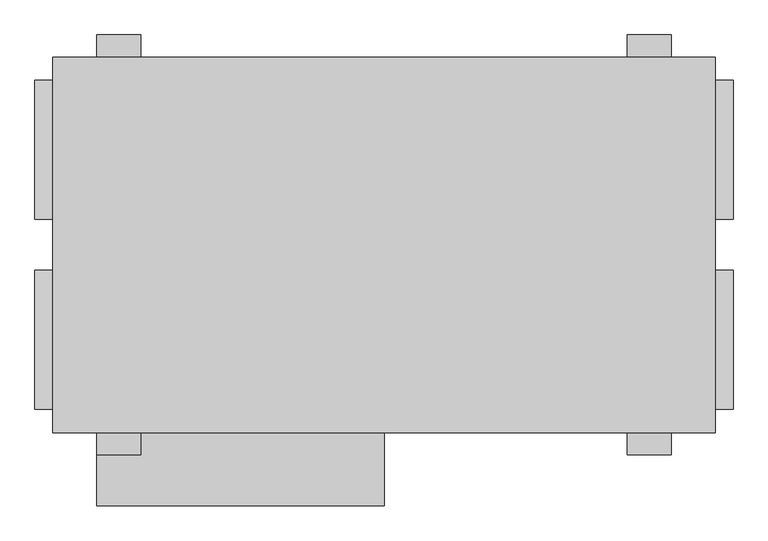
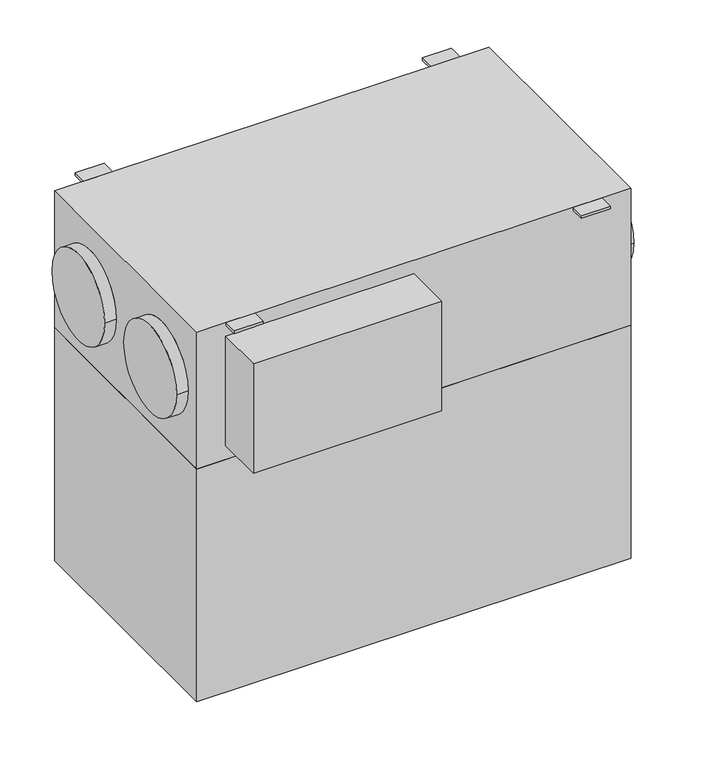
"""IFC4 building model written with IfcOpenShell, lengths in millimetres: proxy geometry, ADSK_КПВУ BRISSAGO CPE_круглая : Brissago CPE 1000."""

from ifc_helpers import new_model, si_unit, frame, origin, place, context, project, spatial, polyline, circle_curve, outline, extrude, source, transform, mapped, element, save
from ifc_brep_helpers import plane_surface, cylinder_surface, advanced_brep


def mechanical_equipment_f2c2758d(model_context):
    return source(origin(), model_context, "Body", "SolidModel", [
        extrude(outline(polyline([(1016.0, 425.0), (1016.0, -425.0), (-484.0, -425.0), (-484.0, 425.0), (1016.0, 425.0)])), frame((0.0, 0.0, -1200.0), z_axis=(0.0, 0.0, 1.0), x_axis=(1.0, 0.0, 0.0)), (0.0, 0.0, 1.0), 850.0),
        advanced_brep(
        [(1016.0, -425.0, 150.0), (1016.0, -425.0, -350.0), (1016.0, 425.0, -350.0), (1016.0, 425.0, 150.0), (1016.0, -57.5, -96.0), (1016.0, -372.5, -96.0), (1016.0, 372.5, -96.0), (1016.0, 57.5, -96.0), (-484.0, -425.0, 150.0), (-484.0, 425.0, 150.0), (-484.0, 425.0, -350.0), (-484.0, -425.0, -350.0), (-484.0, -57.5, -96.0), (-484.0, -372.5, -96.0), (-484.0, 57.5, -96.0), (-484.0, 372.5, -96.0), (-524.0, -372.5, -96.0), (-524.0, -57.5, -96.0), (-524.0, 57.5, -96.0), (-524.0, 372.5, -96.0), (-384.0, -425.0, 100.0), (266.0, -425.0, 100.0), (266.0, -425.0, -300.0), (-384.0, -425.0, -300.0), (1056.0, -372.5, -96.0), (1056.0, -57.5, -96.0), (1056.0, 57.5, -96.0), (1056.0, 372.5, -96.0), (-384.0, -590.0, 100.0), (266.0, -590.0, 100.0), (266.0, -590.0, -300.0), (-384.0, -590.0, -300.0)],
        [
            (0, 1),
            (1, 2),
            (2, 3),
            (3, 0),
            (4, 5, circle_curve(frame((1016.0, -215.0, -96.0), z_axis=(-1.0, 0.0, 0.0), x_axis=(0.0, 1.0, 0.0)), 157.5)),
            (5, 4, circle_curve(frame((1016.0, -215.0, -96.0), z_axis=(-1.0, 0.0, 0.0), x_axis=(0.0, 1.0, 0.0)), 157.5)),
            (6, 7, circle_curve(frame((1016.0, 215.0, -96.0), z_axis=(-1.0, 0.0, 0.0), x_axis=(0.0, 1.0, 0.0)), 157.5)),
            (7, 6, circle_curve(frame((1016.0, 215.0, -96.0), z_axis=(-1.0, 0.0, 0.0), x_axis=(0.0, 1.0, 0.0)), 157.5)),
            (8, 9),
            (9, 10),
            (10, 11),
            (11, 8),
            (12, 13, circle_curve(frame((-484.0, -215.0, -96.0), z_axis=(1.0, 0.0, 0.0), x_axis=(0.0, 1.0, 0.0)), 157.5)),
            (13, 12, circle_curve(frame((-484.0, -215.0, -96.0), z_axis=(1.0, 0.0, 0.0), x_axis=(0.0, 1.0, 0.0)), 157.5)),
            (14, 15, circle_curve(frame((-484.0, 215.0, -96.0), z_axis=(1.0, 0.0, 0.0), x_axis=(0.0, 1.0, 0.0)), 157.5)),
            (15, 14, circle_curve(frame((-484.0, 215.0, -96.0), z_axis=(1.0, 0.0, 0.0), x_axis=(0.0, 1.0, 0.0)), 157.5)),
            (16, 17, circle_curve(frame((-524.0, -215.0, -96.0), z_axis=(-1.0, 0.0, 0.0), x_axis=(0.0, 1.0, 0.0)), 157.5)),
            (17, 16, circle_curve(frame((-524.0, -215.0, -96.0), z_axis=(-1.0, 0.0, 0.0), x_axis=(0.0, 1.0, 0.0)), 157.5)),
            (18, 19, circle_curve(frame((-524.0, 215.0, -96.0), z_axis=(-1.0, 0.0, 0.0), x_axis=(0.0, 1.0, 0.0)), 157.5)),
            (19, 18, circle_curve(frame((-524.0, 215.0, -96.0), z_axis=(-1.0, 0.0, 0.0), x_axis=(0.0, 1.0, 0.0)), 157.5)),
            (0, 8),
            (11, 1),
            (20, 21),
            (21, 22),
            (22, 23),
            (23, 20),
            (10, 2),
            (9, 3),
            (16, 13),
            (12, 17),
            (24, 25, circle_curve(frame((1056.0, -215.0, -96.0), z_axis=(1.0, 0.0, 0.0), x_axis=(0.0, 1.0, 0.0)), 157.5)),
            (25, 24, circle_curve(frame((1056.0, -215.0, -96.0), z_axis=(1.0, 0.0, 0.0), x_axis=(0.0, 1.0, 0.0)), 157.5)),
            (26, 27, circle_curve(frame((1056.0, 215.0, -96.0), z_axis=(1.0, 0.0, 0.0), x_axis=(0.0, 1.0, 0.0)), 157.5)),
            (27, 26, circle_curve(frame((1056.0, 215.0, -96.0), z_axis=(1.0, 0.0, 0.0), x_axis=(0.0, 1.0, 0.0)), 157.5)),
            (24, 5),
            (4, 25),
            (19, 15),
            (14, 18),
            (26, 7),
            (6, 27),
            (20, 28),
            (28, 29),
            (29, 21),
            (22, 30),
            (30, 31),
            (31, 23),
            (31, 28),
            (30, 29),
        ],
        [
            plane_surface(frame((1016.0, -425.0, 150.0), z_axis=(1.0, 0.0, 0.0), x_axis=(0.0, 0.0, -1.0))),
            plane_surface(frame((-484.0, -425.0, 150.0), z_axis=(-1.0, 0.0, 0.0), x_axis=(0.0, 0.0, 1.0))),
            plane_surface(frame((-524.0, -57.5, -96.0), z_axis=(-1.0, 0.0, 0.0), x_axis=(0.0, 0.0, -1.0))),
            plane_surface(frame((1016.0, -425.0, 150.0), z_axis=(0.0, -1.0, 0.0), x_axis=(-1.0, 0.0, 0.0))),
            plane_surface(frame((1016.0, -425.0, -350.0), z_axis=(0.0, 0.0, -1.0), x_axis=(-1.0, 0.0, 0.0))),
            plane_surface(frame((1016.0, 425.0, -350.0), z_axis=(0.0, 1.0, 0.0), x_axis=(-1.0, 0.0, 0.0))),
            plane_surface(frame((1016.0, 425.0, 150.0), z_axis=(0.0, 0.0, 1.0), x_axis=(-1.0, 0.0, 0.0))),
            cylinder_surface(frame((-524.0, -215.0, -96.0), z_axis=(1.0, 0.0, 0.0), x_axis=(0.0, 1.0, 0.0)), 157.5),
            plane_surface(frame((1056.0, -57.5, -96.0), z_axis=(1.0, 0.0, 0.0), x_axis=(0.0, 0.0, 1.0))),
            cylinder_surface(frame((1016.0, -215.0, -96.0), z_axis=(1.0, 0.0, 0.0), x_axis=(0.0, 1.0, 0.0)), 157.5),
            cylinder_surface(frame((-524.0, 215.0, -96.0), z_axis=(1.0, 0.0, 0.0), x_axis=(0.0, 1.0, 0.0)), 157.5),
            cylinder_surface(frame((1016.0, 215.0, -96.0), z_axis=(1.0, 0.0, 0.0), x_axis=(0.0, 1.0, 0.0)), 157.5),
            plane_surface(frame((-384.0, -425.0, 100.0), z_axis=(0.0, 0.0, 1.0), x_axis=(-1.0, 0.0, 0.0))),
            plane_surface(frame((-384.0, -425.0, -300.0), z_axis=(0.0, 0.0, -1.0), x_axis=(1.0, 0.0, 0.0))),
            plane_surface(frame((-384.0, -425.0, 100.0), z_axis=(-1.0, 0.0, 0.0), x_axis=(0.0, 0.0, -1.0))),
            plane_surface(frame((-384.0, -590.0, 100.0), z_axis=(0.0, -1.0, 0.0), x_axis=(0.0, 0.0, -1.0))),
            plane_surface(frame((266.0, -590.0, 100.0), z_axis=(1.0, 0.0, 0.0), x_axis=(0.0, 0.0, -1.0))),
        ],
        [
            (0, [[1, 2, 3, 4], [5, 6], [7, 8]]),
            (1, [[9, 10, 11, 12], [13, 14], [15, 16]]),
            (2, [[17, 18]]),
            (2, [[19, 20]]),
            (3, [[-1, 21, -12, 22], [23, 24, 25, 26]]),
            (4, [[-2, -22, -11, 27]]),
            (5, [[-3, -27, -10, 28]]),
            (6, [[-4, -28, -9, -21]]),
            (7, [[-17, 29, -13, 30]]),
            (7, [[-18, -30, -14, -29]]),
            (8, [[31, 32]]),
            (8, [[33, 34]]),
            (9, [[-31, 35, -5, 36]]),
            (9, [[-32, -36, -6, -35]]),
            (10, [[-20, 37, -15, 38]]),
            (10, [[-19, -38, -16, -37]]),
            (11, [[-33, 39, -7, 40]]),
            (11, [[-34, -40, -8, -39]]),
            (12, [[41, 42, 43, -23]]),
            (13, [[44, 45, 46, -25]]),
            (14, [[-41, -26, -46, 47]]),
            (15, [[-42, -47, -45, 48]]),
            (16, [[-43, -48, -44, -24]]),
        ],
    ),
        extrude(outline(polyline([(-284.0, 475.0), (-284.0, 425.0), (-384.0, 425.0), (-384.0, 475.0), (-284.0, 475.0)])), frame((0.0, 0.0, 140.0), z_axis=(0.0, 0.0, 1.0), x_axis=(1.0, 0.0, 0.0)), (0.0, 0.0, 1.0), 10.0),
        extrude(outline(polyline([(816.0, 475.0), (916.0, 475.0), (916.0, 425.0), (816.0, 425.0), (816.0, 475.0)])), frame((0.0, 0.0, 140.0), z_axis=(0.0, 0.0, 1.0), x_axis=(1.0, 0.0, 0.0)), (0.0, 0.0, 1.0), 10.0),
        extrude(outline(polyline([(-284.0, -475.0), (-384.0, -475.0), (-384.0, -425.0), (-284.0, -425.0), (-284.0, -475.0)])), frame((0.0, 0.0, 140.0), z_axis=(0.0, 0.0, 1.0), x_axis=(1.0, 0.0, 0.0)), (0.0, 0.0, 1.0), 10.0),
        extrude(outline(polyline([(816.0, -475.0), (816.0, -425.0), (916.0, -425.0), (916.0, -475.0), (816.0, -475.0)])), frame((0.0, 0.0, 140.0), z_axis=(0.0, 0.0, 1.0), x_axis=(1.0, 0.0, 0.0)), (0.0, 0.0, 1.0), 10.0),
    ])


if __name__ == "__main__":
    model = new_model("IFC4")
    model_context = context("Model", 3, world=origin())
    ifc_project = project(units=[si_unit("LENGTHUNIT", "METRE", prefix="MILLI")], contexts=[model_context])
    site = spatial("IfcSite", under=ifc_project)
    building = spatial("IfcBuilding", under=site)
    placement = place(None, origin())
    mechanical_equipment_shape = mechanical_equipment_f2c2758d(model_context)
    element("IfcBuildingElementProxy", 1, Name="ADSK_КПВУ BRISSAGO CPE_круглая : Brissago CPE 1000", ObjectType="ADSK_КПВУ BRISSAGO CPE_круглая : Brissago CPE 1000", at=placement, inside=building, context=model_context, shape_type="MappedRepresentation", body=[
        mapped(mechanical_equipment_shape, transform((0.0, 0.0, 0.0), x_axis=(1.0, 0.0, 0.0), y_axis=(0.0, 1.0, 0.0), z_axis=(0.0, 0.0, 1.0))),
    ])
    save(model, "model.ifc")
